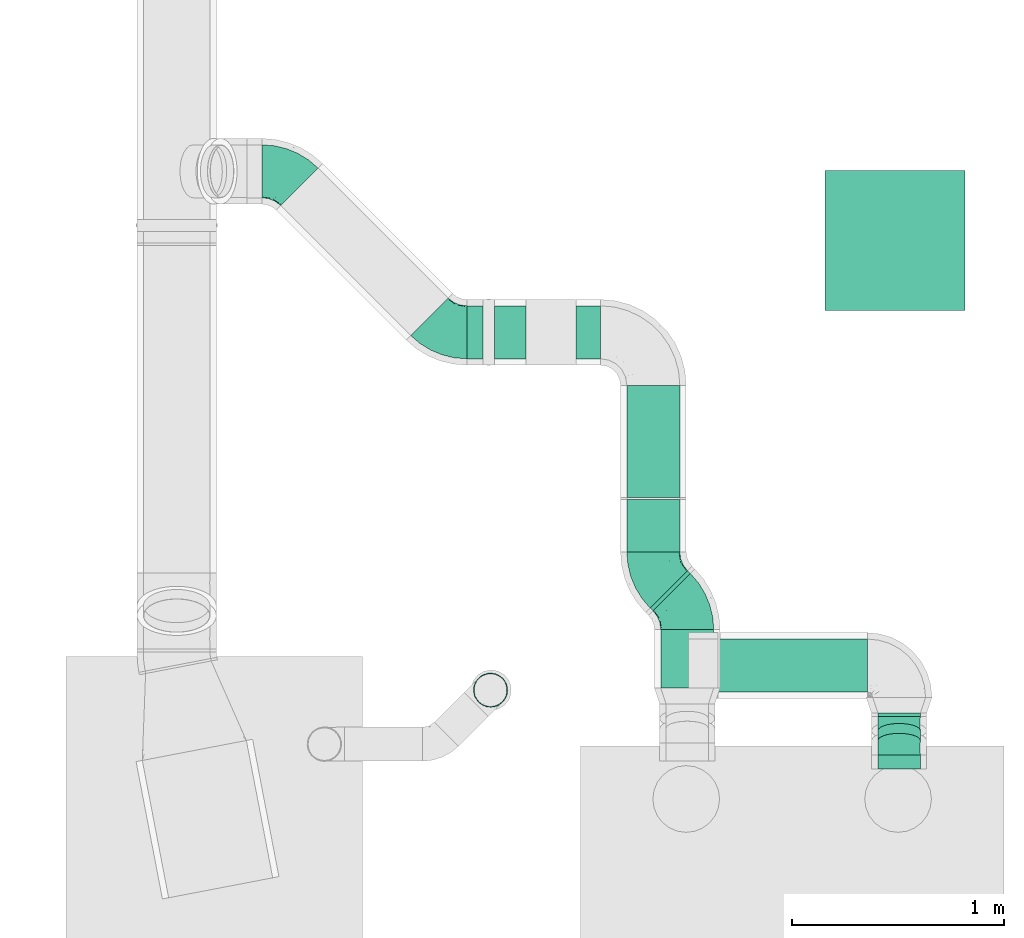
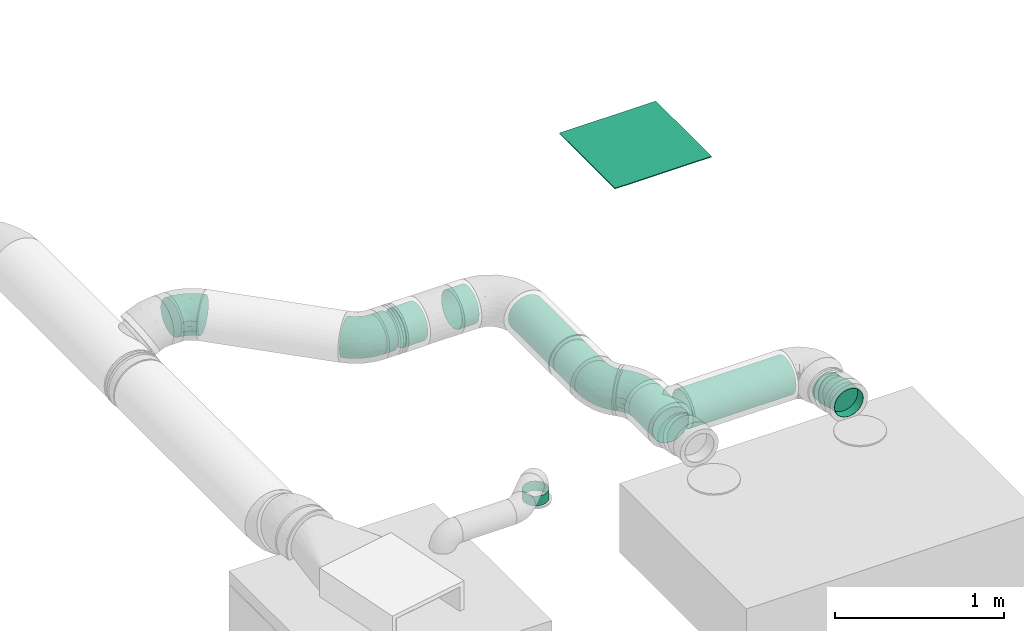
# One storey, part 13 of 21: 12 flow segments, 6 flow fittings, 1 flow terminal.
"""IFC2X3 building model written with IfcOpenShell, lengths in millimetres."""

from ifc_helpers import new_model, entity, si_unit, converted_unit, derived_unit, direction, frame, origin_with_axes, origin_2d_with_axis, place, context, subcontext, project, spatial, hollow_circle, extrude, open_shell, surface_model, source, transform, mapped, type_object, element, save


model = new_model("IFC2X3")

# Units and contexts
model_context = context("Model", 3, precision=0.01, world=frame((0.0, 4.29681676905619e-09, 0.0)), true_north=direction((4.01073788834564e-13, 1.0)))
plan_context = context("Plan", 3, precision=0.01, world=frame((0.0, 4.29681676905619e-09, 0.0)), true_north=direction((4.01073788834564e-13, 1.0)))
body_context = subcontext(model_context, "Body", "Model", "MODEL_VIEW")
ifc_project = project(units=[converted_unit("PLANEANGLEUNIT", "DEGREE", entity("IfcPositiveLengthMeasure", 0.0174532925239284), si_unit("PLANEANGLEUNIT", "RADIAN"), dimensions=[0, 0, 0, 0, 0, 0, 0]), si_unit("AREAUNIT", "SQUARE_METRE"), si_unit("LENGTHUNIT", "METRE", prefix="MILLI"), si_unit("MASSUNIT", "GRAM", prefix="KILO"), si_unit("POWERUNIT", "WATT"), si_unit("PRESSUREUNIT", "PASCAL"), si_unit("FORCEUNIT", "NEWTON", prefix="KILO"), si_unit("ELECTRICVOLTAGEUNIT", "VOLT"), si_unit("ELECTRICCURRENTUNIT", "AMPERE"), si_unit("THERMODYNAMICTEMPERATUREUNIT", "DEGREE_CELSIUS"), si_unit("TIMEUNIT", "SECOND"), si_unit("VOLUMEUNIT", "CUBIC_METRE"), derived_unit("LINEARVELOCITYUNIT", [(si_unit("LENGTHUNIT", "METRE"), 1), (si_unit("TIMEUNIT", "SECOND"), -1)]), derived_unit("VOLUMETRICFLOWRATEUNIT", [(si_unit("VOLUMEUNIT", "CUBIC_METRE"), 1), (si_unit("TIMEUNIT", "SECOND"), -1)]), derived_unit("THERMALTRANSMITTANCEUNIT", [(si_unit("POWERUNIT", "WATT"), 1), (si_unit("THERMODYNAMICTEMPERATUREUNIT", "KELVIN"), -1), (si_unit("AREAUNIT", "SQUARE_METRE"), -1)]), derived_unit("SOUNDPRESSUREUNIT", [(si_unit("PRESSUREUNIT", "PASCAL"), 1)])], contexts=[model_context, plan_context])

# Site, building, storey
site_placement = place(None, frame((0.0, -4.29681676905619e-09, 0.0), z_axis=(0.0, 0.0, 1.0), x_axis=(1.0, 0.0, 0.0)))
site = spatial("IfcSite", under=ifc_project, at=site_placement, Name="ENGM", CompositionType="ELEMENT")
building_placement = place(site_placement, frame((0.0, 4.29681676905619e-09, 0.0), z_axis=(0.0, 0.0, 1.0), x_axis=(1.0, 0.0, 0.0)))
building = spatial("IfcBuilding", under=site, at=building_placement, Name="TI", CompositionType="ELEMENT")
storey_placement = place(building_placement, frame((0.0, 0.0, 210900.0), z_axis=(0.0, 0.0, 1.0), x_axis=(1.0, 0.0, 0.0)))
storey = spatial("IfcBuildingStorey", under=building, at=storey_placement, Name="Nivå F", CompositionType="ELEMENT", Elevation=210900.0)

# Flow fittings
duct_fitting_type = type_object("IfcDuctFittingType", Name="magicirc_elbow_full_radius_001", PredefinedType="BEND")
shared_shape_1 = source(origin_with_axes(), body_context, "Body", "SurfaceModel", [
    surface_model("IfcShellBasedSurfaceModel", [(-103.55339, 32.35238, -120.74073), (-103.55339, 0.0, -125.0), (-103.55339, 88.38835, -88.38835), (-103.55339, 62.5, -108.25318), (-103.55339, 120.74073, -32.35238), (-103.55339, 108.25318, -62.5), (-103.55339, -32.35238, -120.74073), (-103.55339, -62.5, -108.25318), (-103.55339, -88.38835, -88.38835), (-103.55339, -108.25318, -62.5), (-103.55339, -120.74073, -32.35238), (-103.55339, -125.0, 0.0), (-103.55339, 125.0, 0.0), (-103.55339, -62.5, 108.25318), (-103.55339, 120.74073, 32.35238), (-103.55339, 108.25318, 62.5), (-103.55339, 32.35238, 120.74073), (-103.55339, 62.5, 108.25318), (-103.55339, 88.38835, 88.38835), (-103.55339, -108.25318, 62.5), (-103.55339, -88.38835, 88.38835), (-103.55339, -120.74073, 32.35238), (-103.55339, -32.35238, 120.74073), (-103.55339, 0.0, 125.0), (50.34672, 96.09989, -120.74073), (135.7233, 10.7233, -88.38835), (73.22331, 73.22331, -125.0), (10.7233, 135.7233, -88.38835), (29.02913, 117.41748, -108.25318), (-3.32325, 149.76986, -62.5), (-12.15328, 158.59989, -32.35238), (117.41748, 29.02913, 108.25318), (96.09989, 50.34672, -120.74073), (117.41748, 29.02913, -108.25318), (158.59989, -12.15328, -32.35238), (149.76986, -3.32325, -62.5), (161.61165, -15.16504, 0.0), (135.7233, 10.7233, 88.38835), (-12.15328, 158.59989, 32.35238), (10.7233, 135.7233, 88.38835), (-3.32325, 149.76986, 62.5), (29.02913, 117.41748, 108.25318), (73.22331, 73.22331, 125.0), (50.34672, 96.09989, 120.74073), (158.59989, -12.15328, 32.35238), (149.76986, -3.32325, 62.5), (96.09989, 50.34672, 120.74073), (-15.16504, 161.61165, 0.0), (-71.42232, -99.6447, 73.48578), (-44.89046, -120.38313, 0.0), (-57.05973, -120.17346, 21.81428), (92.48445, -15.44439, 96.05752), (-13.29539, -72.83948, 91.44783), (-35.41638, -46.54877, 112.60163), (-53.05843, -76.2135, 95.96477), (-52.80866, -113.87358, 42.93527), (-29.95223, -95.81654, 69.99912), (13.30108, 79.99157, 117.1107), (23.75752, 46.96611, 124.57055), (-74.52069, -49.18357, 114.30556), (-30.68612, 132.62981, 55.80824), (-18.08865, 125.15355, 76.6992), (-50.00916, 16.41095, 124.57055), (-57.84997, -17.26168, 123.19921), (7.53427, -3.80061, 122.03869), (-7.67262, -103.64817, 45.52456), (-22.71583, -114.22791, 21.7641), (13.74429, -103.59286, 24.67287), (116.86608, -53.38137, 0.0), (132.63386, -38.79725, 21.82774), (89.76989, -68.58123, 24.1251), (-60.49109, 116.04155, 60.66825), (-65.96787, 47.1573, 117.1107), (17.35339, -34.13906, 110.3101), (62.29865, -4.48678, 112.84863), (-76.94339, 99.37776, 78.78589), (-22.72242, 54.85677, 118.83277), (47.3214, -70.36624, 69.17354), (88.93194, -46.57311, 69.99912), (54.20915, -33.92888, 100.13866), (-53.63107, 129.47687, 36.5183), (-71.20101, 129.25927, 0.0), (49.51939, -90.30119, 21.46261), (84.91582, -62.92829, 48.27731), (-41.05339, 141.74683, 0.0), (-60.64711, 77.02175, 102.33599), (-43.93846, 106.07682, 82.14525), (36.83138, -88.91881, 44.41504), (53.11195, 28.70025, 123.19921), (117.86215, -43.17942, 42.93527), (8.25832, -82.08292, 74.46222), (120.96265, -19.95623, 73.48578), (-12.4895, 30.15232, 124.41894), (-11.57862, 97.34658, 102.33599), (12.32798, -106.6462, 0.0), (66.69304, -84.12745, 0.0), (25.11389, -60.63029, 90.50113), (-60.64711, 77.02175, -102.33599), (120.96265, -19.95623, -73.48578), (-40.87917, -47.22443, -112.84863), (53.11196, 28.70025, -123.19921), (23.75752, 46.96611, -124.57055), (-50.00916, 16.41095, -124.57055), (-43.93846, 106.07682, -82.14525), (-11.57864, 97.34658, -102.33598), (-53.63107, 129.47687, -36.5183), (-70.8553, 115.19846, -56.91801), (-76.94339, 99.37776, -78.78589), (28.83707, -98.86808, -21.46261), (-14.98266, -111.97115, -24.12509), (-15.54752, -104.54157, -48.2773), (-52.80866, -113.87358, -42.93527), (-71.42232, -99.6447, -73.48578), (117.86215, -43.17942, -42.93527), (78.71568, -67.86496, -45.52456), (88.93194, -46.57311, -69.99912), (-66.3525, -121.22011, -21.82773), (-22.72243, 54.85676, -118.83278), (-54.47555, -76.31722, -96.05751), (-57.84997, -17.26168, -123.19921), (-2.64009, -8.01497, -122.03869), (13.30107, 79.99157, -117.1107), (11.86926, -36.41067, -110.3101), (-12.4895, 30.15232, -124.41894), (-36.53446, 126.27575, -60.66825), (-15.84865, 124.55254, -78.9227), (-65.96787, 47.1573, -117.1107), (87.47212, 17.91605, -114.30556), (57.95811, -7.87179, -112.60163), (91.40906, -16.37311, -95.96477), (36.83138, -88.91881, -44.41504), (52.20187, -63.88091, -74.46221), (-14.34032, -62.32301, -100.13866), (-29.95223, -95.81654, -69.99911), (96.83384, -64.70882, -21.7641), (63.53252, -82.9699, -24.67287), (16.29516, -83.21773, -69.17354), (125.32279, -44.62815, -21.81428), (60.90656, -42.10403, -91.44783), (25.11389, -60.63029, -90.50113)], [open_shell([[[0, 1, 2]], [[3, 0, 2]], [[4, 5, 2]], [[6, 2, 1]], [[4, 2, 6]], [[7, 8, 6]], [[8, 4, 6]], [[9, 10, 8]], [[11, 8, 10]], [[8, 11, 4]], [[11, 12, 4]], [[12, 13, 14]], [[15, 14, 16]], [[16, 17, 18]], [[15, 16, 18]], [[16, 14, 13]], [[19, 20, 21]], [[21, 20, 11]], [[22, 23, 13]], [[20, 13, 11]], [[13, 23, 16]], [[13, 12, 11]], [[24, 25, 26]], [[27, 24, 28]], [[27, 29, 30]], [[24, 27, 25]], [[25, 27, 31]], [[32, 25, 33]], [[32, 26, 25]], [[25, 34, 35]], [[34, 25, 36]], [[25, 37, 36]], [[27, 30, 31]], [[38, 39, 30]], [[39, 38, 40]], [[31, 30, 41]], [[30, 39, 41]], [[42, 41, 43]], [[44, 37, 45]], [[36, 37, 44]], [[31, 42, 46]], [[37, 25, 31]], [[42, 31, 41]], [[38, 30, 47]], [[20, 19, 48]], [[11, 49, 50]], [[37, 31, 51]], [[52, 53, 54]], [[48, 55, 56]], [[43, 57, 58]], [[53, 59, 54]], [[40, 60, 61]], [[16, 23, 62]], [[63, 64, 62]], [[13, 59, 22]], [[65, 66, 67]], [[68, 69, 70]], [[15, 71, 14]], [[19, 21, 55]], [[16, 72, 17]], [[64, 73, 74]], [[75, 15, 18]], [[76, 72, 62]], [[53, 52, 73]], [[77, 78, 79]], [[14, 80, 81]], [[82, 70, 83]], [[81, 12, 14]], [[84, 80, 38]], [[55, 65, 56]], [[85, 86, 75]], [[79, 78, 51]], [[67, 82, 87]], [[13, 20, 54]], [[42, 58, 88]], [[23, 63, 62]], [[49, 66, 50]], [[42, 88, 46]], [[45, 89, 44]], [[46, 74, 31]], [[18, 17, 85]], [[44, 69, 36]], [[87, 90, 65]], [[74, 51, 31]], [[83, 70, 89]], [[45, 91, 89]], [[43, 41, 57]], [[55, 66, 65]], [[62, 92, 76]], [[81, 80, 84]], [[75, 71, 15]], [[47, 84, 38]], [[92, 64, 58]], [[38, 80, 60]], [[86, 85, 93]], [[39, 93, 41]], [[72, 85, 17]], [[80, 71, 60]], [[76, 57, 93]], [[61, 93, 39]], [[43, 58, 42]], [[88, 64, 74]], [[76, 93, 85]], [[91, 45, 37]], [[69, 44, 89]], [[23, 22, 63]], [[48, 54, 20]], [[56, 90, 52]], [[79, 51, 74]], [[91, 51, 78]], [[59, 63, 22]], [[64, 63, 53]], [[64, 88, 58]], [[74, 46, 88]], [[62, 72, 16]], [[85, 72, 76]], [[93, 57, 41]], [[58, 57, 76]], [[50, 66, 55]], [[90, 87, 77]], [[49, 94, 66]], [[67, 66, 94]], [[82, 94, 95]], [[87, 65, 67]], [[94, 82, 67]], [[70, 82, 95]], [[68, 70, 95]], [[89, 78, 83]], [[77, 83, 78]], [[82, 83, 87]], [[55, 21, 50]], [[11, 50, 21]], [[85, 75, 18]], [[71, 75, 86]], [[86, 61, 60]], [[71, 80, 14]], [[86, 60, 71]], [[38, 60, 40]], [[93, 61, 86]], [[39, 40, 61]], [[53, 73, 64]], [[79, 73, 96]], [[73, 79, 74]], [[79, 96, 77]], [[55, 48, 19]], [[54, 48, 56]], [[51, 91, 37]], [[89, 91, 78]], [[54, 59, 13]], [[63, 59, 53]], [[90, 77, 96]], [[83, 77, 87]], [[52, 90, 96]], [[65, 90, 56]], [[52, 96, 73]], [[56, 52, 54]], [[64, 92, 62]], [[58, 76, 92]], [[70, 69, 89]], [[36, 69, 68]], [[2, 97, 3]], [[25, 35, 98]], [[99, 7, 6]], [[26, 100, 101]], [[1, 0, 102]], [[24, 26, 101]], [[12, 81, 4]], [[103, 104, 97]], [[4, 81, 105]], [[4, 105, 106]], [[106, 103, 107]], [[108, 109, 110]], [[27, 28, 104]], [[2, 107, 97]], [[111, 9, 112]], [[113, 114, 115]], [[11, 10, 116]], [[117, 97, 104]], [[118, 7, 99]], [[119, 120, 99]], [[118, 8, 7]], [[49, 116, 109]], [[121, 104, 28]], [[111, 10, 9]], [[119, 6, 1]], [[8, 112, 9]], [[120, 122, 99]], [[26, 32, 100]], [[81, 84, 105]], [[116, 10, 111]], [[84, 47, 30]], [[123, 102, 117]], [[124, 103, 106]], [[124, 30, 29]], [[125, 103, 124]], [[107, 2, 5]], [[104, 103, 125]], [[119, 1, 102]], [[101, 117, 121]], [[0, 126, 102]], [[28, 24, 121]], [[3, 126, 0]], [[35, 34, 113]], [[32, 33, 127]], [[128, 127, 129]], [[130, 131, 114]], [[132, 133, 118]], [[134, 135, 114]], [[108, 130, 135]], [[100, 120, 101]], [[115, 98, 113]], [[136, 133, 132]], [[68, 137, 36]], [[117, 126, 97]], [[123, 120, 102]], [[129, 138, 128]], [[128, 138, 122]], [[33, 25, 129]], [[113, 134, 114]], [[105, 84, 30]], [[110, 109, 111]], [[68, 134, 137]], [[98, 129, 25]], [[115, 131, 138]], [[132, 118, 99]], [[112, 118, 133]], [[127, 100, 32]], [[120, 100, 128]], [[120, 119, 102]], [[99, 6, 119]], [[97, 126, 3]], [[102, 126, 117]], [[101, 121, 24]], [[104, 121, 117]], [[137, 134, 113]], [[131, 130, 136]], [[68, 95, 134]], [[135, 134, 95]], [[108, 95, 94]], [[130, 114, 135]], [[95, 108, 135]], [[109, 108, 94]], [[49, 109, 94]], [[111, 133, 110]], [[136, 110, 133]], [[108, 110, 130]], [[113, 34, 137]], [[36, 137, 34]], [[106, 107, 5]], [[97, 107, 103]], [[4, 106, 5]], [[106, 105, 124]], [[30, 124, 105]], [[125, 29, 27]], [[29, 125, 124]], [[104, 125, 27]], [[128, 122, 120]], [[132, 122, 139]], [[122, 132, 99]], [[132, 139, 136]], [[113, 98, 35]], [[129, 98, 115]], [[118, 112, 8]], [[111, 112, 133]], [[129, 127, 33]], [[100, 127, 128]], [[131, 136, 139]], [[110, 136, 130]], [[138, 131, 139]], [[114, 131, 115]], [[138, 139, 122]], [[115, 138, 129]], [[117, 101, 123]], [[120, 123, 101]], [[109, 116, 111]], [[11, 116, 49]]])]),
])
for number, where, z_axis, x_axis, name in (
    (1, (608585.5993, 692765.29135, 2600.0), (0.0, 0.0, 1.0), (0.707106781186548, -0.707106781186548, 0.0), "magicirc_elbow_full_radius_001"),
    (2, (607825.5993, 693525.29135, 2600.0), (0.0, 0.0, 1.0), (-0.707106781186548, 0.707106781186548, 0.0), "magicirc_elbow_full_radius_001"),
    (3, (609569.51365, 691625.29135, 2600.0), (0.0, 0.0, 1.0), (0.0, -1.0, 0.0), "magicirc_elbow_full_radius_001"),
    (4, (609729.51365, 691465.29135, 2600.0), (0.0, 0.0, 1.0), (0.0, 1.0, 0.0), "magicirc_elbow_full_radius_001"),
):
    element("IfcFlowFitting", number, at=place(storey_placement, frame(where, z_axis=z_axis, x_axis=x_axis)), inside=storey, type_object=duct_fitting_type, Name=name, context=body_context, shape_type="MappedRepresentation", body=[
        mapped(shared_shape_1, transform((0.0, 0.0, 0.0), scale=1.0)),
    ])
shared_shape_2 = source(origin_with_axes(), body_context, "Body", "SurfaceModel", [
    surface_model("IfcShellBasedSurfaceModel", [(-35.2654, 25.8819, -96.59259), (-35.2654, 0.0, -100.0), (-35.2654, 96.59259, -25.8819), (-35.2654, 50.0, -86.60254), (-35.2654, 86.60254, -50.0), (-35.2654, 70.71068, -70.71068), (-35.2654, -70.71068, -70.71068), (-35.2654, -50.0, -86.60254), (-35.2654, -25.8819, -96.59259), (-35.2654, -86.60254, -50.0), (-35.2654, -96.59259, -25.8819), (-35.2654, -50.0, 86.60254), (-35.2654, -100.0, 0.0), (-35.2654, -96.59259, 25.8819), (-35.2654, 96.59259, 25.8819), (-35.2654, 100.0, 0.0), (-35.2654, 25.8819, 96.59259), (-35.2654, 86.60254, 50.0), (-35.2654, 70.71068, 70.71068), (-35.2654, 50.0, 86.60254), (-35.2654, -86.60254, 50.0), (-35.2654, -70.71068, 70.71068), (-35.2654, -25.8819, 96.59259), (-35.2654, 0.0, 100.0), (33.13863, 12.06148, -100.0), (24.2865, 36.38251, -96.59259), (16.03762, 59.04611, -86.60254), (57.32311, -54.38483, -70.71068), (3.51882, 93.44124, -50.0), (0.10202, 102.82882, -25.8819), (8.95416, 78.50778, -70.71068), (62.75845, -69.31829, -50.0), (41.99076, -12.25956, -96.59259), (50.23964, -34.92315, -86.60254), (66.17524, -78.70586, -25.8819), (67.34065, -81.90778, 0.0), (3.51882, 93.44124, 50.0), (0.10202, 102.82882, 25.8819), (50.23964, -34.92315, 86.60254), (16.03762, 59.04611, 86.60254), (24.2865, 36.38251, 96.59259), (8.95416, 78.50778, 70.71068), (41.99076, -12.25956, 96.59259), (62.75845, -69.31829, 50.0), (57.32311, -54.38483, 70.71068), (66.17524, -78.70586, 25.8819), (33.13863, 12.06148, 100.0), (-1.06338, 106.03074, 0.0), (10.26605, -58.22165, 78.29765), (5.86662, -77.21666, 59.66315), (15.63178, -88.65224, 36.48875), (1.9808, -11.2337, 98.94429), (7.65098, -35.79456, 91.79557), (-2.5719, 14.58596, 99.31016), (-17.90058, 101.51922, 0.0), (-0.37701, -96.21365, 18.56723), (-6.98461, 39.61171, 92.84831), (16.82906, -95.44233, 0.0), (34.74187, -90.11431, 17.58609), (1.9808, -11.2337, -98.94429), (5.0529, -36.25267, -91.79557), (33.26128, -90.28232, -18.56723), (15.63178, -88.65224, -36.48875), (-2.5719, 14.58596, -99.31016), (20.89683, -74.56643, -59.66315), (-6.98462, 39.61171, -92.84831), (-1.82576, -96.56217, -17.58609), (10.26605, -58.22165, -78.29765)], [open_shell([[[0, 1, 2]], [[3, 0, 2]], [[2, 4, 5]], [[3, 2, 5]], [[6, 2, 1]], [[7, 6, 8]], [[6, 1, 8]], [[9, 10, 6]], [[11, 6, 10]], [[10, 12, 13]], [[2, 6, 11]], [[14, 15, 16]], [[17, 14, 18]], [[14, 16, 19]], [[18, 14, 19]], [[11, 16, 15]], [[20, 21, 13]], [[11, 13, 21]], [[10, 13, 11]], [[11, 22, 16]], [[22, 23, 16]], [[15, 2, 11]], [[24, 25, 26]], [[27, 24, 26]], [[28, 29, 26]], [[28, 26, 30]], [[31, 26, 29]], [[32, 27, 33]], [[32, 24, 27]], [[29, 34, 31]], [[31, 27, 26]], [[34, 29, 35]], [[29, 36, 35]], [[37, 36, 29]], [[36, 38, 35]], [[39, 40, 36]], [[39, 36, 41]], [[42, 36, 40]], [[43, 38, 44]], [[38, 43, 45]], [[38, 45, 35]], [[36, 42, 38]], [[40, 46, 42]], [[29, 47, 37]], [[48, 21, 49]], [[11, 21, 48]], [[21, 20, 49]], [[45, 43, 50]], [[51, 52, 42]], [[11, 48, 52]], [[20, 50, 49]], [[23, 22, 51]], [[23, 53, 16]], [[11, 52, 22]], [[50, 20, 13]], [[44, 38, 48]], [[17, 18, 36]], [[19, 41, 18]], [[42, 46, 51]], [[52, 51, 22]], [[46, 40, 53]], [[54, 14, 37]], [[55, 50, 13]], [[54, 15, 14]], [[37, 14, 17]], [[53, 56, 16]], [[19, 16, 56]], [[51, 53, 23]], [[12, 57, 55]], [[43, 49, 50]], [[48, 38, 52]], [[42, 52, 38]], [[53, 51, 46]], [[44, 48, 49]], [[44, 49, 43]], [[35, 45, 58]], [[36, 37, 17]], [[47, 54, 37]], [[58, 55, 57]], [[12, 55, 13]], [[19, 56, 39]], [[50, 58, 45]], [[19, 39, 41]], [[36, 18, 41]], [[53, 40, 56]], [[35, 58, 57]], [[50, 55, 58]], [[40, 39, 56]], [[1, 59, 8]], [[33, 60, 32]], [[61, 62, 34]], [[0, 63, 1]], [[4, 28, 5]], [[59, 63, 24]], [[5, 26, 3]], [[27, 31, 64]], [[29, 4, 2]], [[9, 64, 62]], [[60, 59, 32]], [[65, 0, 3]], [[12, 10, 66]], [[62, 61, 66]], [[67, 6, 7]], [[63, 65, 25]], [[10, 9, 62]], [[9, 6, 64]], [[60, 67, 7]], [[66, 61, 57]], [[62, 66, 10]], [[2, 15, 54]], [[54, 47, 29]], [[31, 62, 64]], [[29, 28, 4]], [[30, 5, 28]], [[7, 8, 60]], [[65, 26, 25]], [[6, 67, 64]], [[59, 60, 8]], [[26, 5, 30]], [[63, 0, 65]], [[24, 63, 25]], [[60, 33, 67]], [[59, 1, 63]], [[26, 65, 3]], [[67, 33, 27]], [[31, 34, 62]], [[12, 66, 57]], [[35, 57, 61]], [[27, 64, 67]], [[35, 61, 34]], [[32, 59, 24]], [[2, 54, 29]]])]),
])
for number, where, z_axis, x_axis, name in (
    (5, (610729.51365, 690917.76518, 2600.0), (-1.0, 0.0, 0.0), (0.0, -1.0, 0.0), "magicirc_elbow_full_radius_001"),
    (6, (610729.51365, 690805.00207, 2641.04242000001), (1.0, 0.0, 0.0), (0.0, -0.939692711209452, 0.342019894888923), "magicirc_elbow_full_radius_001"),
):
    element("IfcFlowFitting", number, at=place(storey_placement, frame(where, z_axis=z_axis, x_axis=x_axis)), inside=storey, type_object=duct_fitting_type, Name=name, context=body_context, shape_type="MappedRepresentation", body=[
        mapped(shared_shape_2, transform((0.0, 0.0, 0.0), scale=1.0)),
    ])

# Flow segments
duct_segment_type = type_object("IfcDuctSegmentType", Name="2 - Spiro kanaler, Forsinket stål", PredefinedType="RIGIDSEGMENT")
shared_shape_3 = source(origin_with_axes(), body_context, "Body", "SweptSolid", [
    extrude(hollow_circle(Radius=125.0, WallThickness=2.0, at=origin_2d_with_axis()), frame((0.0, 0.0, 0.0), z_axis=(1.0, 0.0, 0.0), x_axis=(0.0, 1.0, 0.0)), (0.0, 0.0, 1.0), 116.2),
])
flow_segment_1_placement = place(storey_placement, frame((609319.51365, 692765.29135, 2600.0), z_axis=(0.0, 0.0, 1.0), x_axis=(-1.0, 0.0, 0.0)))
element("IfcFlowSegment", 7, at=flow_segment_1_placement, inside=storey, type_object=duct_segment_type, Name="2 - Spiro kanaler, Forsinket stål", context=body_context, shape_type="MappedRepresentation", body=[
    mapped(shared_shape_3, transform((0.0, 0.0, 0.0), scale=1.0)),
])
shared_shape_4 = source(origin_with_axes(), body_context, "Body", "SweptSolid", [
    extrude(hollow_circle(Radius=125.0, WallThickness=2.0, at=origin_2d_with_axis()), frame((0.0, 0.0, 0.0), z_axis=(1.0, 0.0, 0.0), x_axis=(0.0, 1.0, 0.0)), (0.0, 0.0, 1.0), 147.7),
])
flow_segment_2_placement = place(storey_placement, frame((608968.28329, 692765.29135, 2600.0), z_axis=(0.0, 0.0, 1.0), x_axis=(-1.0, 0.0, 0.0)))
element("IfcFlowSegment", 8, at=flow_segment_2_placement, inside=storey, type_object=duct_segment_type, Name="2 - Spiro kanaler, Forsinket stål", context=body_context, shape_type="MappedRepresentation", body=[
    mapped(shared_shape_4, transform((0.0, 0.0, 0.0), scale=1.0)),
])
shared_shape_5 = source(origin_with_axes(), body_context, "Body", "SweptSolid", [
    extrude(hollow_circle(Radius=125.0, WallThickness=2.0, at=origin_2d_with_axis()), frame((0.0, 0.0, 0.0), z_axis=(1.0, 0.0, 0.0), x_axis=(0.0, 1.0, 0.0)), (0.0, 0.0, 1.0), 76.4),
])
flow_segment_3_placement = place(storey_placement, frame((608765.5993, 692765.29135, 2600.0), z_axis=(0.0, 0.0, 1.0), x_axis=(-1.0, 0.0, 0.0)))
element("IfcFlowSegment", 9, at=flow_segment_3_placement, inside=storey, type_object=duct_segment_type, Name="2 - Spiro kanaler, Forsinket stål", context=body_context, shape_type="MappedRepresentation", body=[
    mapped(shared_shape_5, transform((0.0, 0.0, 0.0), scale=1.0)),
])
shared_shape_6 = source(origin_with_axes(), body_context, "Body", "SweptSolid", [
    extrude(hollow_circle(Radius=125.0, WallThickness=2.0, at=origin_2d_with_axis()), frame((0.0, 0.0, 0.0), z_axis=(1.0, 0.0, 0.0), x_axis=(0.0, 1.0, 0.0)), (0.0, 0.0, 1.0), 276.2),
])
flow_segment_4_placement = place(storey_placement, frame((609729.51365, 691361.73795, 2600.0), z_axis=(0.0, 0.0, 1.0), x_axis=(0.0, -1.0, 0.0)))
element("IfcFlowSegment", 10, at=flow_segment_4_placement, inside=storey, type_object=duct_segment_type, Name="2 - Spiro kanaler, Forsinket stål", context=body_context, shape_type="MappedRepresentation", body=[
    mapped(shared_shape_6, transform((0.0, 0.0, 0.0), scale=1.0)),
])
shared_shape_7 = source(origin_with_axes(), body_context, "Body", "SweptSolid", [
    extrude(hollow_circle(Radius=125.0, WallThickness=2.0, at=origin_2d_with_axis()), frame((0.0, 0.0, 0.0), z_axis=(1.0, 0.0, 0.0), x_axis=(0.0, 1.0, 0.0)), (0.0, 0.0, 1.0), 705.0),
])
flow_segment_5_placement = place(storey_placement, frame((609874.51365, 691192.49978, 2600.0), z_axis=(0.0, 0.0, 1.0), x_axis=(1.0, 0.0, 0.0)))
element("IfcFlowSegment", 11, at=flow_segment_5_placement, inside=storey, type_object=duct_segment_type, Name="2 - Spiro kanaler, Forsinket stål", context=body_context, shape_type="MappedRepresentation", body=[
    mapped(shared_shape_7, transform((0.0, 0.0, 0.0), scale=1.0)),
])
shared_shape_8 = source(origin_with_axes(), body_context, "Body", "SweptSolid", [
    extrude(hollow_circle(Radius=125.0, WallThickness=2.0, at=origin_2d_with_axis()), frame((0.0, 0.0, 0.0), z_axis=(1.0, 0.0, 0.0), x_axis=(0.0, 1.0, 0.0)), (0.0, 0.0, 1.0), 530.0),
])
flow_segment_6_placement = place(storey_placement, frame((609569.51365, 692515.29135, 2600.0), z_axis=(0.0, 0.0, 1.0), x_axis=(0.0, -1.0, 0.0)))
element("IfcFlowSegment", 12, at=flow_segment_6_placement, inside=storey, type_object=duct_segment_type, Name="2 - Spiro kanaler, Forsinket stål", context=body_context, shape_type="MappedRepresentation", body=[
    mapped(shared_shape_8, transform((0.0, 0.0, 0.0), scale=1.0)),
])
shared_shape_9 = source(origin_with_axes(), body_context, "Body", "SweptSolid", [
    extrude(hollow_circle(Radius=125.0, WallThickness=2.0, at=origin_2d_with_axis()), frame((0.0, 0.0, 0.0), z_axis=(1.0, 0.0, 0.0), x_axis=(0.0, 1.0, 0.0)), (0.0, 0.0, 1.0), 246.4),
])
flow_segment_7_placement = place(storey_placement, frame((609569.51365, 691975.29135, 2600.0), z_axis=(0.0, 0.0, 1.0), x_axis=(0.0, -1.0, 0.0)))
element("IfcFlowSegment", 13, at=flow_segment_7_placement, inside=storey, type_object=duct_segment_type, Name="2 - Spiro kanaler, Forsinket stål", context=body_context, shape_type="MappedRepresentation", body=[
    mapped(shared_shape_9, transform((0.0, 0.0, 0.0), scale=1.0)),
])
shared_shape_10 = source(origin_with_axes(), body_context, "Body", "SweptSolid", [
    extrude(hollow_circle(Radius=125.0, WallThickness=2.0, at=origin_2d_with_axis()), frame((0.0, 0.0, 0.0), z_axis=(1.0, 0.0, 0.0), x_axis=(0.0, 1.0, 0.0)), (0.0, 0.0, 1.0), 19.2),
])
flow_segment_8_placement = place(storey_placement, frame((609642.73695, 691552.06804, 2600.0), z_axis=(0.0, 0.0, 1.0), x_axis=(0.707106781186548, -0.707106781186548, 0.0)))
element("IfcFlowSegment", 14, at=flow_segment_8_placement, inside=storey, type_object=duct_segment_type, Name="2 - Spiro kanaler, Forsinket stål", context=body_context, shape_type="MappedRepresentation", body=[
    mapped(shared_shape_10, transform((0.0, 0.0, 0.0), scale=1.0)),
])
shared_shape_11 = source(origin_with_axes(), body_context, "Body", "SweptSolid", [
    extrude(hollow_circle(Radius=100.0, WallThickness=2.0, at=origin_2d_with_axis()), frame((0.0, 0.0, 0.0), z_axis=(1.0, 0.0, 0.0), x_axis=(0.0, 1.0, 0.0)), (0.0, 0.0, 1.0), 49.5),
])
flow_segment_9_placement = place(storey_placement, frame((610729.51365, 690884.62655, 2612.06148), z_axis=(0.0, 0.342019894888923, 0.939692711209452), x_axis=(0.0, -0.939692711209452, 0.342019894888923)))
element("IfcFlowSegment", 15, at=flow_segment_9_placement, inside=storey, type_object=duct_segment_type, Name="2 - Spiro kanaler, Forsinket stål", context=body_context, shape_type="MappedRepresentation", body=[
    mapped(shared_shape_11, transform((0.0, 0.0, 0.0), scale=1.0)),
])
shared_shape_12 = source(origin_with_axes(), body_context, "Body", "SweptSolid", [
    extrude(hollow_circle(Radius=100.0, WallThickness=2.0, at=origin_2d_with_axis()), frame((0.0, 0.0, 0.0), z_axis=(1.0, 0.0, 0.0), x_axis=(0.0, 1.0, 0.0)), (0.0, 0.0, 1.0), 14.5),
])
flow_segment_10_placement = place(storey_placement, frame((610729.51365, 690967.49978, 2600.0), z_axis=(0.0, 0.0, 1.0), x_axis=(0.0, -1.0, 0.0)))
element("IfcFlowSegment", 16, at=flow_segment_10_placement, inside=storey, type_object=duct_segment_type, Name="2 - Spiro kanaler, Forsinket stål", context=body_context, shape_type="MappedRepresentation", body=[
    mapped(shared_shape_12, transform((0.0, 0.0, 0.0), scale=1.0)),
])
shared_shape_13 = source(origin_with_axes(), body_context, "Body", "SweptSolid", [
    extrude(hollow_circle(Radius=100.0, WallThickness=2.0, at=origin_2d_with_axis()), frame((0.0, 0.0, 0.0), z_axis=(1.0, 0.0, 0.0), x_axis=(0.0, 1.0, 0.0)), (0.0, 0.0, 1.0), 64.7),
])
flow_segment_11_placement = place(storey_placement, frame((610729.51365, 690769.73667, 2641.04242000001), z_axis=(0.0, 0.0, 1.0), x_axis=(0.0, -1.0, 0.0)))
element("IfcFlowSegment", 17, at=flow_segment_11_placement, inside=storey, type_object=duct_segment_type, Name="2 - Spiro kanaler, Forsinket stål", context=body_context, shape_type="MappedRepresentation", body=[
    mapped(shared_shape_13, transform((0.0, 0.0, 0.0), scale=1.0)),
])
shared_shape_14 = source(origin_with_axes(), body_context, "Body", "SweptSolid", [
    extrude(hollow_circle(Radius=80.0, WallThickness=2.0, at=origin_2d_with_axis()), frame((0.0, 0.0, 0.0), z_axis=(1.0, 0.0, 0.0), x_axis=(0.0, 1.0, 0.0)), (0.0, 0.0, 1.0), 71.0),
])
flow_segment_12_placement = place(storey_placement, frame((608801.18353, 691076.23442, 2470.97847999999), z_axis=(0.707106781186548, 0.707106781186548, 0.0), x_axis=(0.0, 0.0, -1.0)))
element("IfcFlowSegment", 18, at=flow_segment_12_placement, inside=storey, type_object=duct_segment_type, Name="2 - Spiro kanaler, Forsinket stål", context=body_context, shape_type="MappedRepresentation", body=[
    mapped(shared_shape_14, transform((0.0, 0.0, 0.0), scale=1.0)),
])

# Flow terminal
air_terminal_type = type_object("IfcAirTerminalType", Name="BRTR-600-600", PredefinedType="NOTDEFINED")
shared_shape_15 = source(origin_with_axes(), body_context, "Body", "SurfaceModel", [
    surface_model("IfcShellBasedSurfaceModel", [(0.0, -329.99999, 329.99999), (6.0, -329.99999, 329.99999), (6.0, 329.99999, 329.99999), (0.0, 329.99999, 329.99999), (0.0, 329.99999, -329.99999), (6.0, 329.99999, -329.99999), (6.0, -329.99999, -329.99999), (0.0, -329.99999, -329.99999)], [open_shell([[[0, 1, 2]], [[2, 3, 0]], [[4, 5, 6]], [[6, 7, 4]], [[2, 1, 6]], [[6, 5, 2]], [[3, 2, 5]], [[5, 4, 3]], [[0, 3, 4]], [[4, 7, 0]], [[1, 0, 7]], [[7, 6, 1]]])]),
])
flow_terminal_placement = place(storey_placement, frame((610709.54457, 693197.98838, 3002.5), z_axis=(1.0, 0.0, 0.0), x_axis=(0.0, 0.0, -1.0)))
element("IfcFlowTerminal", 19, at=flow_terminal_placement, inside=storey, type_object=air_terminal_type, Name="BRTR-600-600", context=body_context, shape_type="MappedRepresentation", body=[
    mapped(shared_shape_15, transform((0.0, 0.0, 0.0), scale=1.0)),
])

save(model, "model.ifc")
